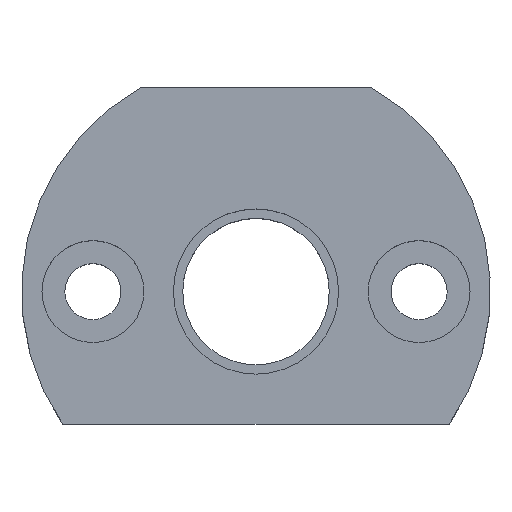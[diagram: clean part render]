
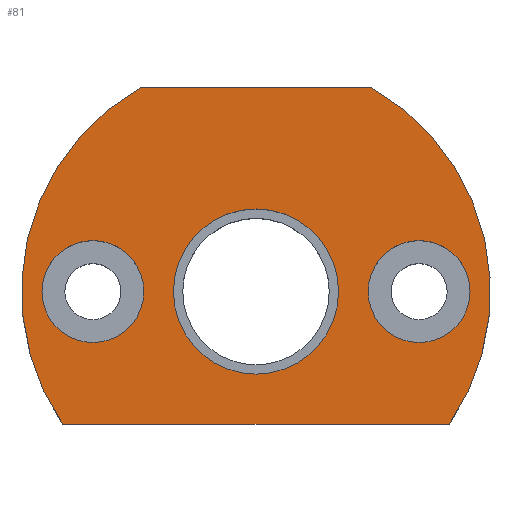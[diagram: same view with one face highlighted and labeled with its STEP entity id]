
A CAD part, top view. The second image highlights one B-rep face of the part: STEP entity #81.
In plain terms, the highlighted planar face has unit normal (0, 0, 1).
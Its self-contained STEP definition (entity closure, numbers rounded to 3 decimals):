
#81 = ADVANCED_FACE( '', ( #125, #126, #127, #128 ), #129, .T. );
#125 = FACE_BOUND( '', #212, .T. );
#126 = FACE_BOUND( '', #213, .T. );
#127 = FACE_BOUND( '', #214, .T. );
#128 = FACE_OUTER_BOUND( '', #215, .T. );
#129 = PLANE( '', #216 );
#212 = EDGE_LOOP( '', ( #311 ) );
#213 = EDGE_LOOP( '', ( #312 ) );
#214 = EDGE_LOOP( '', ( #313 ) );
#215 = EDGE_LOOP( '', ( #314, #315, #316, #317 ) );
#216 = AXIS2_PLACEMENT_3D( '', #318, #319, #320 );
#311 = ORIENTED_EDGE( '', *, *, #484, .T. );
#312 = ORIENTED_EDGE( '', *, *, #485, .F. );
#313 = ORIENTED_EDGE( '', *, *, #486, .F. );
#314 = ORIENTED_EDGE( '', *, *, #487, .T. );
#315 = ORIENTED_EDGE( '', *, *, #488, .T. );
#316 = ORIENTED_EDGE( '', *, *, #489, .T. );
#317 = ORIENTED_EDGE( '', *, *, #490, .T. );
#318 = CARTESIAN_POINT( '', ( 0., 0., 7.5 ) );
#319 = DIRECTION( '', ( 0., 0., 1. ) );
#320 = DIRECTION( '', ( 1., 0., 0. ) );
#484 = EDGE_CURVE( '', #543, #543, #544, .T. );
#485 = EDGE_CURVE( '', #545, #545, #546, .T. );
#486 = EDGE_CURVE( '', #547, #547, #548, .T. );
#487 = EDGE_CURVE( '', #549, #550, #551, .T. );
#488 = EDGE_CURVE( '', #550, #552, #553, .T. );
#489 = EDGE_CURVE( '', #552, #554, #555, .T. );
#490 = EDGE_CURVE( '', #554, #549, #556, .T. );
#543 = VERTEX_POINT( '', #700 );
#544 = CIRCLE( '', #701, 8.1 );
#545 = VERTEX_POINT( '', #702 );
#546 = CIRCLE( '', #703, 5. );
#547 = VERTEX_POINT( '', #704 );
#548 = CIRCLE( '', #705, 5. );
#549 = VERTEX_POINT( '', #706 );
#550 = VERTEX_POINT( '', #707 );
#551 = LINE( '', #708, #709 );
#552 = VERTEX_POINT( '', #710 );
#553 = CIRCLE( '', #711, 23. );
#554 = VERTEX_POINT( '', #712 );
#555 = LINE( '', #713, #714 );
#556 = CIRCLE( '', #715, 23. );
#700 = CARTESIAN_POINT( '', ( -8.1, 0., 7.5 ) );
#701 = AXIS2_PLACEMENT_3D( '', #823, #824, #825 );
#702 = CARTESIAN_POINT( '', ( -11., 0., 7.5 ) );
#703 = AXIS2_PLACEMENT_3D( '', #826, #827, #828 );
#704 = CARTESIAN_POINT( '', ( 21., 0., 7.5 ) );
#705 = AXIS2_PLACEMENT_3D( '', #829, #830, #831 );
#706 = CARTESIAN_POINT( '', ( 11.358, 20., 7.5 ) );
#707 = CARTESIAN_POINT( '', ( -11.358, 20., 7.5 ) );
#708 = CARTESIAN_POINT( '', ( 11.358, 20., 7.5 ) );
#709 = VECTOR( '', #832, 1000. );
#710 = CARTESIAN_POINT( '', ( -18.974, -13., 7.5 ) );
#711 = AXIS2_PLACEMENT_3D( '', #833, #834, #835 );
#712 = CARTESIAN_POINT( '', ( 18.974, -13., 7.5 ) );
#713 = CARTESIAN_POINT( '', ( -18.974, -13., 7.5 ) );
#714 = VECTOR( '', #836, 1000. );
#715 = AXIS2_PLACEMENT_3D( '', #837, #838, #839 );
#823 = CARTESIAN_POINT( '', ( 0., 0., 7.5 ) );
#824 = DIRECTION( '', ( 0., 0., -1. ) );
#825 = DIRECTION( '', ( -1., 0., 0. ) );
#826 = CARTESIAN_POINT( '', ( -16., 0., 7.5 ) );
#827 = DIRECTION( '', ( 0., 0., 1. ) );
#828 = DIRECTION( '', ( 1., 0., 0. ) );
#829 = CARTESIAN_POINT( '', ( 16., 0., 7.5 ) );
#830 = DIRECTION( '', ( 0., 0., 1. ) );
#831 = DIRECTION( '', ( 1., 0., 0. ) );
#832 = DIRECTION( '', ( -1., 0., 0. ) );
#833 = CARTESIAN_POINT( '', ( 0., 0., 7.5 ) );
#834 = DIRECTION( '', ( 0., 0., 1. ) );
#835 = DIRECTION( '', ( 1., 0., 0. ) );
#836 = DIRECTION( '', ( 1., 0., 0. ) );
#837 = CARTESIAN_POINT( '', ( 0., 0., 7.5 ) );
#838 = DIRECTION( '', ( 0., 0., 1. ) );
#839 = DIRECTION( '', ( 1., 0., 0. ) );
